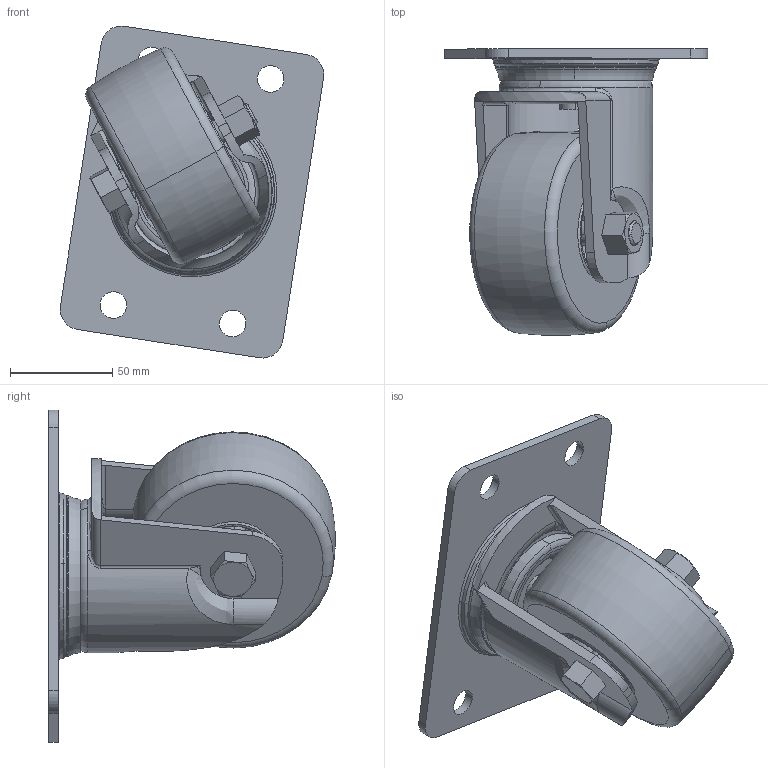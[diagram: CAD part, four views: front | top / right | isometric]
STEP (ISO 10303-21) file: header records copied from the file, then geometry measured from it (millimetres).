
FILE_DESCRIPTION (( 'STEP AP203' ), '1' );
FILE_NAME ('YKCKZJ-100-N 4.STEP', '2022-08-12T03:22:44', ( 'pc' ), ( 'Microsoft' ), 'SwSTEP 2.0', 'SolidWorks 2014', '' );
FILE_SCHEMA (( 'CONFIG_CONTROL_DESIGN' ));
Length unit declared in the file: millimetre
Products named in the file (9): 2; 1; 4; 5; 7; 8; 9; 10; YKCKZJ-100-N 4
Assembly tree (8 placements, depth 2):
  YKCKZJ-100-N 4
    2
    1
    4
    5
    7
    8
    9
    10
Bounding box: 128.87 x 139.89 x 162.26 mm (x, y, z)
Volume: 519333.6 mm3; surface area: 132610.5 mm2
Topology: 8 solids, 8 shells, 262 faces, 588 edges, 358 vertices
Faces by surface type: torus 72, cylinder 64, plane 60, cone 50, bspline 16
Entity records: 10011 total; most frequent: CARTESIAN_POINT 3083, DIRECTION 1382, ORIENTED_EDGE 1172, AXIS2_PLACEMENT_3D 603, EDGE_CURVE 586, VERTEX_POINT 358, CIRCLE 346, EDGE_LOOP 304
